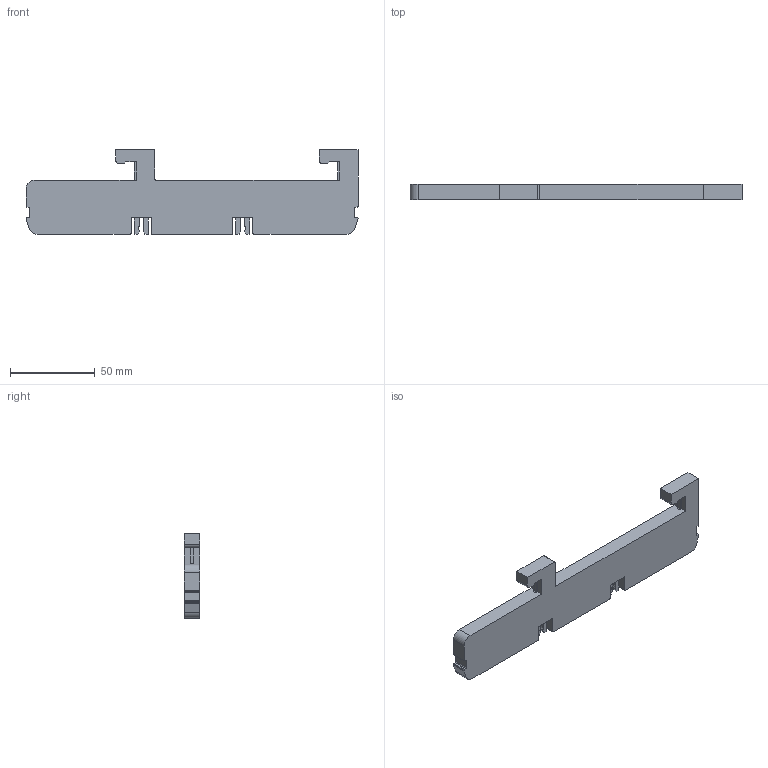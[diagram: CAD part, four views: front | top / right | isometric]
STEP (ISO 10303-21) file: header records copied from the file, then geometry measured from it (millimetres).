
FILE_DESCRIPTION (( 'STEP AP203' ), '1' );
FILE_NAME ('DN53026.STEP', '2025-10-31T07:11:29', ( '' ), ( '' ), 'SwSTEP 2.0', 'SolidWorks 2019', '' );
FILE_SCHEMA (( 'CONFIG_CONTROL_DESIGN' ));
Length unit declared in the file: millimetre
Products named in the file (1): DN53026
Bounding box: 196 x 9 x 50 mm (x, y, z)
Volume: 59552.6 mm3; surface area: 19257.6 mm2
Topology: 1 solids, 1 shells, 115 faces, 327 edges, 218 vertices
Faces by surface type: plane 74, cylinder 41
Entity records: 3820 total; most frequent: CARTESIAN_POINT 661, ORIENTED_EDGE 654, DIRECTION 641, EDGE_CURVE 327, LINE 245, VECTOR 245, VERTEX_POINT 218, AXIS2_PLACEMENT_3D 198
